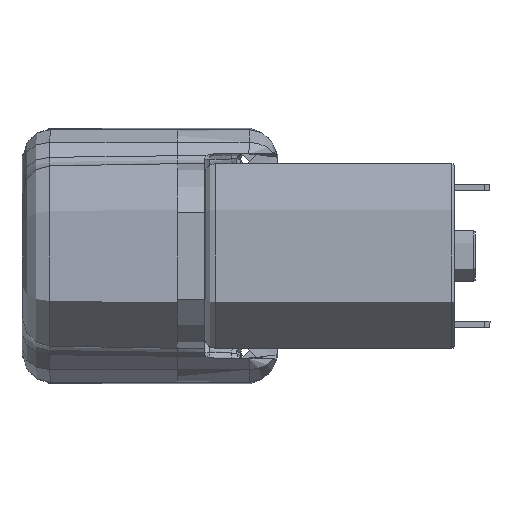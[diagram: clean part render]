
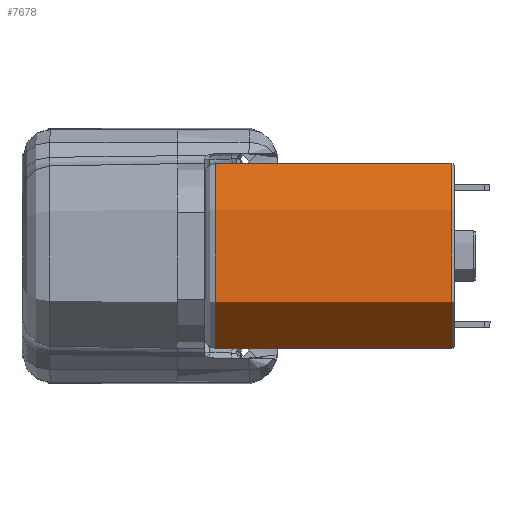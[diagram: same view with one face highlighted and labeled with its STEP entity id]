
A CAD part, front view. The second image highlights one B-rep face of the part: STEP entity #7678.
In plain terms, the highlighted cylindrical face has radius 8.5 mm (diameter 17 mm), a partial arc.
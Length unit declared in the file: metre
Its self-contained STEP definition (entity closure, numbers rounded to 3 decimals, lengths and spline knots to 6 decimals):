
#265 = CIRCLE ( 'NONE', #1665, 0.0085 ) ;
#698 = CARTESIAN_POINT ( 'NONE',  ( 0.0228, 0., 0. ) ) ;
#965 = VERTEX_POINT ( 'NONE', #4288 ) ;
#1665 = AXIS2_PLACEMENT_3D ( 'NONE', #5120, #14616, #6468 ) ;
#1793 = AXIS2_PLACEMENT_3D ( 'NONE', #698, #10200, #2080 ) ;
#2065 = CARTESIAN_POINT ( 'NONE',  ( 0.023, 0., -0.0085 ) ) ;
#2080 = DIRECTION ( 'NONE',  ( 0., 0., 1. ) ) ;
#2266 = ORIENTED_EDGE ( 'NONE', *, *, #12756, .F. ) ;
#2335 = AXIS2_PLACEMENT_3D ( 'NONE', #15209, #7050, #16578 ) ;
#3977 = EDGE_CURVE ( 'NONE', #17537, #9525, #265, .T. ) ;
#4288 = CARTESIAN_POINT ( 'NONE',  ( 0.0228, 0., 0.0085 ) ) ;
#4461 = ORIENTED_EDGE ( 'NONE', *, *, #14008, .T. ) ;
#5098 = LINE ( 'NONE', #16054, #11864 ) ;
#5120 = CARTESIAN_POINT ( 'NONE',  ( 0.001, 0., 0. ) ) ;
#5858 = CARTESIAN_POINT ( 'NONE',  ( 0.001, 0., -0.0085 ) ) ;
#6069 = CARTESIAN_POINT ( 'NONE',  ( 0.001, 0., 0.0085 ) ) ;
#6339 = ORIENTED_EDGE ( 'NONE', *, *, #3977, .T. ) ;
#6468 = DIRECTION ( 'NONE',  ( 0., 0., 1. ) ) ;
#7050 = DIRECTION ( 'NONE',  ( -1., 0., 0. ) ) ;
#7458 = CYLINDRICAL_SURFACE ( 'NONE', #2335, 0.0085 ) ;
#7678 = ADVANCED_FACE ( 'NONE', ( #7866 ), #7458, .T. ) ;
#7866 = FACE_OUTER_BOUND ( 'NONE', #10700, .T. ) ;
#9168 = CARTESIAN_POINT ( 'NONE',  ( 0.0228, 0., -0.0085 ) ) ;
#9525 = VERTEX_POINT ( 'NONE', #5858 ) ;
#10164 = VECTOR ( 'NONE', #10182, 1. ) ;
#10182 = DIRECTION ( 'NONE',  ( -1., 0., 0. ) ) ;
#10200 = DIRECTION ( 'NONE',  ( -1., 0., 0. ) ) ;
#10700 = EDGE_LOOP ( 'NONE', ( #2266, #4461, #13166, #6339 ) ) ;
#10900 = EDGE_CURVE ( 'NONE', #965, #17537, #5098, .T. ) ;
#11864 = VECTOR ( 'NONE', #13284, 1. ) ;
#12756 = EDGE_CURVE ( 'NONE', #12860, #9525, #13791, .T. ) ;
#12860 = VERTEX_POINT ( 'NONE', #9168 ) ;
#13166 = ORIENTED_EDGE ( 'NONE', *, *, #10900, .T. ) ;
#13284 = DIRECTION ( 'NONE',  ( -1., 0., 0. ) ) ;
#13791 = LINE ( 'NONE', #2065, #10164 ) ;
#14008 = EDGE_CURVE ( 'NONE', #12860, #965, #16766, .T. ) ;
#14616 = DIRECTION ( 'NONE',  ( 1., 0., 0. ) ) ;
#15209 = CARTESIAN_POINT ( 'NONE',  ( 0.023, 0., 0. ) ) ;
#16054 = CARTESIAN_POINT ( 'NONE',  ( 0.023, 0., 0.0085 ) ) ;
#16578 = DIRECTION ( 'NONE',  ( 0., 0., 1. ) ) ;
#16766 = CIRCLE ( 'NONE', #1793, 0.0085 ) ;
#17537 = VERTEX_POINT ( 'NONE', #6069 ) ;
